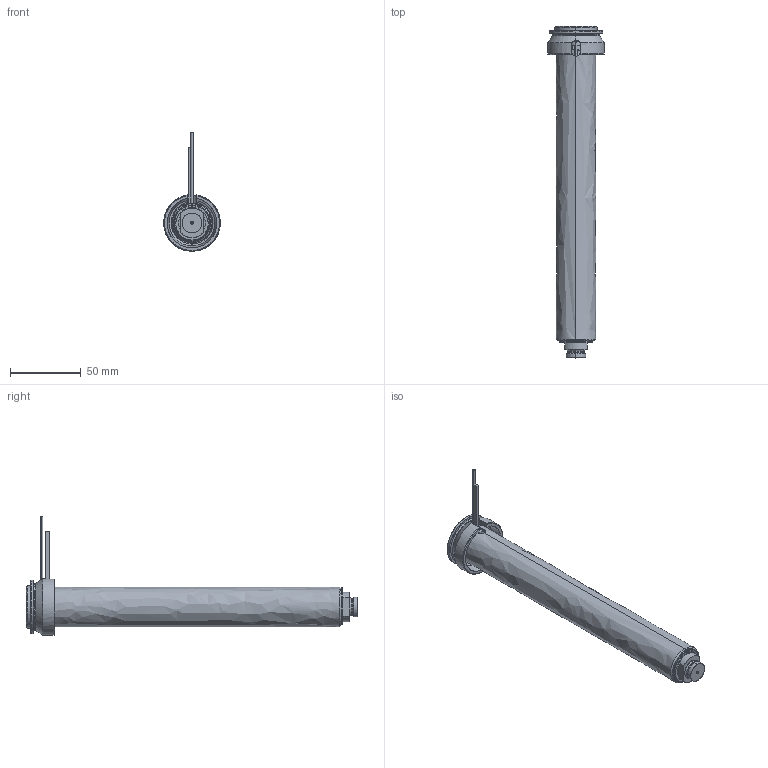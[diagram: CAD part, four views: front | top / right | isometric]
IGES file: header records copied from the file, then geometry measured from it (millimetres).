
Start section: SolidWorks IGES file using analytic representation for surfaces
Global section: file name: C:\Documents and Settings\ws-20\Desktop\TEM\UGEP4105-M-A-0 [Øf-0.88 P-0 ØC-09].IGS; native system: SolidWorks 2012; preprocessor: SolidWorks 2012; author: ws-20; date: 120426.085246; units: millimetre
Bounding box: 40 x 234.25 x 83.65 mm (x, y, z)
Surface area: 67878.6 mm2 (no closed solid volume)
Topology: 0 solids, 0 shells, 110 faces, 1779 edges, 1779 vertices
Faces by surface type: revolution 64, bspline 46
